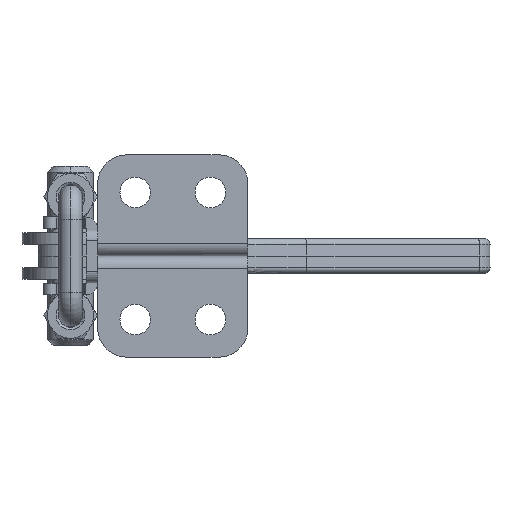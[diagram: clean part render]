
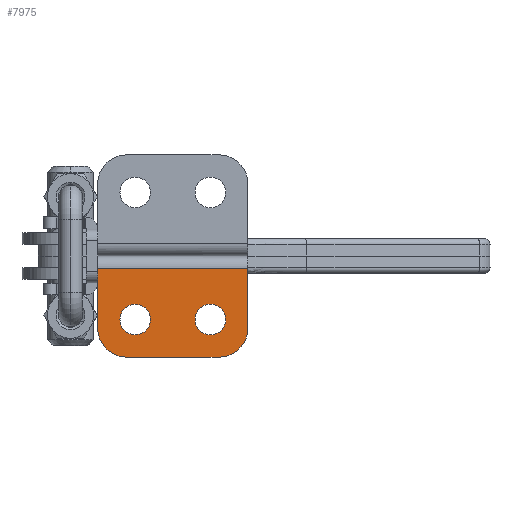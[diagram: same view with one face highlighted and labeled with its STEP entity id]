
A CAD part, front view. The second image highlights one B-rep face of the part: STEP entity #7975.
In plain terms, the highlighted planar face has unit normal (0, -1, 0).
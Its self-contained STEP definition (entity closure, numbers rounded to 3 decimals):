
#633 = CARTESIAN_POINT ( 'NONE',  ( 11.636, 0., -13.65 ) ) ;
#667 = DIRECTION ( 'NONE',  ( 0., 0., -1. ) ) ;
#668 = DIRECTION ( 'NONE',  ( 0., -1., 0. ) ) ;
#669 = CARTESIAN_POINT ( 'NONE',  ( 11.636, 0., -11. ) ) ;
#670 = AXIS2_PLACEMENT_3D ( 'NONE', #669, #668, #667 ) ;
#671 = CIRCLE ( 'NONE', #670, 2.65 ) ;
#688 = CARTESIAN_POINT ( 'NONE',  ( 11.636, 0., -8.35 ) ) ;
#794 = CARTESIAN_POINT ( 'NONE',  ( -1.364, 0., -8.35 ) ) ;
#795 = CARTESIAN_POINT ( 'NONE',  ( -1.364, 0., -13.65 ) ) ;
#796 = DIRECTION ( 'NONE',  ( 0., 0., -1. ) ) ;
#797 = DIRECTION ( 'NONE',  ( 0., -1., 0. ) ) ;
#798 = CARTESIAN_POINT ( 'NONE',  ( -1.364, 0., -11. ) ) ;
#799 = AXIS2_PLACEMENT_3D ( 'NONE', #798, #797, #796 ) ;
#800 = CIRCLE ( 'NONE', #799, 2.65 ) ;
#2363 = DIRECTION ( 'NONE',  ( 0., 0., -1. ) ) ;
#2364 = DIRECTION ( 'NONE',  ( 0., -1., 0. ) ) ;
#2365 = CARTESIAN_POINT ( 'NONE',  ( -1.364, 0., -11. ) ) ;
#2366 = AXIS2_PLACEMENT_3D ( 'NONE', #2365, #2364, #2363 ) ;
#2368 = CIRCLE ( 'NONE', #2366, 2.65 ) ;
#2468 = DIRECTION ( 'NONE',  ( 0., 0., -1. ) ) ;
#2470 = DIRECTION ( 'NONE',  ( 0., 1., 0. ) ) ;
#2472 = AXIS2_PLACEMENT_3D ( 'NONE', #2477, #2470, #2468 ) ;
#2477 = CARTESIAN_POINT ( 'NONE',  ( 18.15, 0., -17.5 ) ) ;
#2478 = PLANE ( 'NONE',  #2472 ) ;
#2479 = FACE_OUTER_BOUND ( 'NONE', #7991, .T. ) ;
#2480 = FACE_BOUND ( 'NONE', #8026, .T. ) ;
#2481 = FACE_BOUND ( 'NONE', #7976, .T. ) ;
#2507 = CARTESIAN_POINT ( 'NONE',  ( -2.864, 0., -17.5 ) ) ;
#2508 = CARTESIAN_POINT ( 'NONE',  ( 13.136, 0., -17.5 ) ) ;
#2509 = DIRECTION ( 'NONE',  ( -1., 0., 0. ) ) ;
#2510 = VECTOR ( 'NONE', #2509, 1000. ) ;
#2511 = CARTESIAN_POINT ( 'NONE',  ( 18.15, 0., -17.5 ) ) ;
#2512 = LINE ( 'NONE', #2511, #2510 ) ;
#2516 = DIRECTION ( 'NONE',  ( 0., 0., -1. ) ) ;
#2517 = DIRECTION ( 'NONE',  ( 0., -1., 0. ) ) ;
#2518 = CARTESIAN_POINT ( 'NONE',  ( 11.636, 0., -11. ) ) ;
#2519 = AXIS2_PLACEMENT_3D ( 'NONE', #2518, #2517, #2516 ) ;
#2520 = CIRCLE ( 'NONE', #2519, 2.65 ) ;
#2556 = CARTESIAN_POINT ( 'NONE',  ( 18.136, 0., -12.5 ) ) ;
#2557 = CARTESIAN_POINT ( 'NONE',  ( 18.136, 0., -2.1 ) ) ;
#2558 = DIRECTION ( 'NONE',  ( 0., 0., -1. ) ) ;
#2559 = VECTOR ( 'NONE', #2558, 1000. ) ;
#2560 = CARTESIAN_POINT ( 'NONE',  ( 18.136, 0., 0. ) ) ;
#2561 = LINE ( 'NONE', #2560, #2559 ) ;
#2562 = CARTESIAN_POINT ( 'NONE',  ( -7.864, 0., -2.1 ) ) ;
#2563 = DIRECTION ( 'NONE',  ( -1., 0., 0. ) ) ;
#2564 = VECTOR ( 'NONE', #2563, 1000. ) ;
#2565 = CARTESIAN_POINT ( 'NONE',  ( 18.15, 0., -2.1 ) ) ;
#2566 = LINE ( 'NONE', #2565, #2564 ) ;
#2613 = DIRECTION ( 'NONE',  ( 0., 0., -1. ) ) ;
#2614 = DIRECTION ( 'NONE',  ( 0., 1., 0. ) ) ;
#2615 = CARTESIAN_POINT ( 'NONE',  ( 13.136, 0., -12.5 ) ) ;
#2616 = AXIS2_PLACEMENT_3D ( 'NONE', #2615, #2614, #2613 ) ;
#2617 = CIRCLE ( 'NONE', #2616, 5. ) ;
#2618 = DIRECTION ( 'NONE',  ( 0., 0., -1. ) ) ;
#2619 = DIRECTION ( 'NONE',  ( 0., 1., 0. ) ) ;
#2620 = CARTESIAN_POINT ( 'NONE',  ( -2.864, 0., -12.5 ) ) ;
#2621 = AXIS2_PLACEMENT_3D ( 'NONE', #2620, #2619, #2618 ) ;
#2622 = CIRCLE ( 'NONE', #2621, 5. ) ;
#2665 = CARTESIAN_POINT ( 'NONE',  ( -7.864, 0., -12.5 ) ) ;
#2666 = DIRECTION ( 'NONE',  ( 0., 0., -1. ) ) ;
#2667 = VECTOR ( 'NONE', #2666, 1000. ) ;
#2668 = CARTESIAN_POINT ( 'NONE',  ( -7.864, 0., 0. ) ) ;
#2674 = LINE ( 'NONE', #2668, #2667 ) ;
#7781 = VERTEX_POINT ( 'NONE', #633 ) ;
#7782 = VERTEX_POINT ( 'NONE', #688 ) ;
#7799 = EDGE_CURVE ( 'NONE', #7781, #7782, #671, .T. ) ;
#7856 = EDGE_CURVE ( 'NONE', #7860, #7861, #800, .T. ) ;
#7860 = VERTEX_POINT ( 'NONE', #795 ) ;
#7861 = VERTEX_POINT ( 'NONE', #794 ) ;
#7971 = ORIENTED_EDGE ( 'NONE', *, *, #7856, .F. ) ;
#7972 = ORIENTED_EDGE ( 'NONE', *, *, #7973, .F. ) ;
#7973 = EDGE_CURVE ( 'NONE', #7861, #7860, #2368, .T. ) ;
#7975 = ADVANCED_FACE ( 'NONE', ( #2481, #2480, #2479 ), #2478, .F. ) ;
#7976 = EDGE_LOOP ( 'NONE', ( #7977, #8024 ) ) ;
#7977 = ORIENTED_EDGE ( 'NONE', *, *, #7799, .F. ) ;
#7991 = EDGE_LOOP ( 'NONE', ( #8036, #8032, #8035, #8131, #8102, #8103 ) ) ;
#7995 = EDGE_CURVE ( 'NONE', #7996, #7997, #2512, .T. ) ;
#7996 = VERTEX_POINT ( 'NONE', #2508 ) ;
#7997 = VERTEX_POINT ( 'NONE', #2507 ) ;
#8024 = ORIENTED_EDGE ( 'NONE', *, *, #8025, .F. ) ;
#8025 = EDGE_CURVE ( 'NONE', #7782, #7781, #2520, .T. ) ;
#8026 = EDGE_LOOP ( 'NONE', ( #7971, #7972 ) ) ;
#8032 = ORIENTED_EDGE ( 'NONE', *, *, #8033, .T. ) ;
#8033 = EDGE_CURVE ( 'NONE', #8038, #8034, #2566, .T. ) ;
#8034 = VERTEX_POINT ( 'NONE', #2562 ) ;
#8035 = ORIENTED_EDGE ( 'NONE', *, *, #8113, .T. ) ;
#8036 = ORIENTED_EDGE ( 'NONE', *, *, #8037, .F. ) ;
#8037 = EDGE_CURVE ( 'NONE', #8038, #8039, #2561, .T. ) ;
#8038 = VERTEX_POINT ( 'NONE', #2557 ) ;
#8039 = VERTEX_POINT ( 'NONE', #2556 ) ;
#8099 = EDGE_CURVE ( 'NONE', #7997, #8114, #2622, .T. ) ;
#8102 = ORIENTED_EDGE ( 'NONE', *, *, #7995, .F. ) ;
#8103 = ORIENTED_EDGE ( 'NONE', *, *, #8104, .F. ) ;
#8104 = EDGE_CURVE ( 'NONE', #8039, #7996, #2617, .T. ) ;
#8113 = EDGE_CURVE ( 'NONE', #8034, #8114, #2674, .T. ) ;
#8114 = VERTEX_POINT ( 'NONE', #2665 ) ;
#8131 = ORIENTED_EDGE ( 'NONE', *, *, #8099, .F. ) ;
